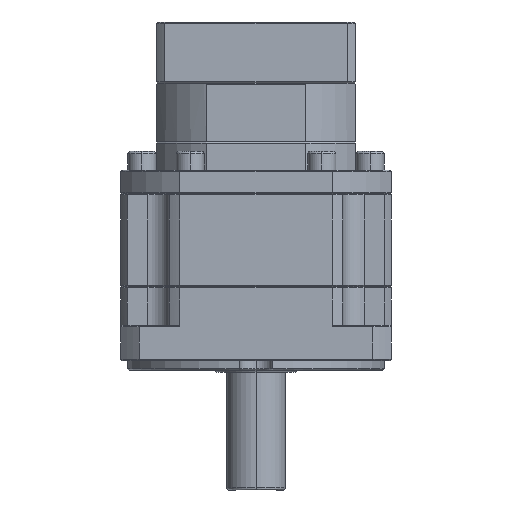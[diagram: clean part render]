
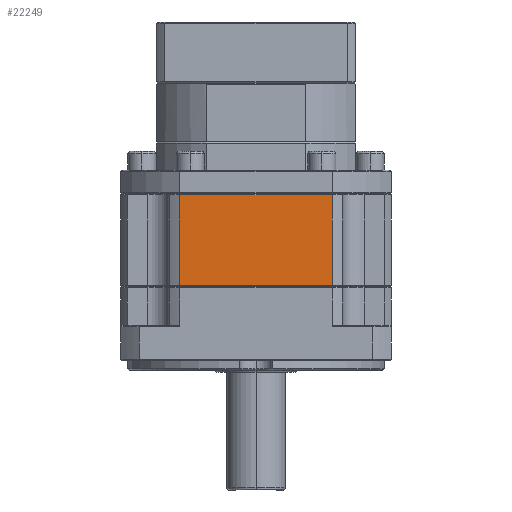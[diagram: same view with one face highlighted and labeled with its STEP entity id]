
A CAD part, front view. The second image highlights one B-rep face of the part: STEP entity #22249.
In plain terms, the highlighted planar face has unit normal (0, -1, 0).
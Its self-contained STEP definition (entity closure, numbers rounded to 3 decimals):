
#1251 = LINE ( 'NONE', #19459, #23240 ) ;
#7698 = ORIENTED_EDGE ( 'NONE', *, *, #27627, .F. ) ;
#12386 = CARTESIAN_POINT ( 'NONE',  ( 96.041, 22.547, -66.221 ) ) ;
#18432 = EDGE_CURVE ( 'NONE', #80512, #22578, #1251, .T. ) ;
#19459 = CARTESIAN_POINT ( 'NONE',  ( 38.541, 22.547, -66.721 ) ) ;
#21837 = DIRECTION ( 'NONE',  ( -1., 0., 0. ) ) ;
#22249 = ADVANCED_FACE ( 'NONE', ( #75827 ), #96482, .F. ) ;
#22578 = VERTEX_POINT ( 'NONE', #78565 ) ;
#23240 = VECTOR ( 'NONE', #85011, 1000. ) ;
#25943 = VECTOR ( 'NONE', #49230, 1000. ) ;
#27627 = EDGE_CURVE ( 'NONE', #93059, #105631, #76577, .T. ) ;
#28284 = EDGE_CURVE ( 'NONE', #22578, #93059, #116012, .T. ) ;
#43988 = VECTOR ( 'NONE', #54380, 1000. ) ;
#44554 = AXIS2_PLACEMENT_3D ( 'NONE', #12386, #77954, #21837 ) ;
#49230 = DIRECTION ( 'NONE',  ( 0., 0., 1. ) ) ;
#51625 = VECTOR ( 'NONE', #81653, 1000. ) ;
#54380 = DIRECTION ( 'NONE',  ( 0., 0., -1. ) ) ;
#57209 = EDGE_CURVE ( 'NONE', #105631, #80512, #100849, .T. ) ;
#65322 = CARTESIAN_POINT ( 'NONE',  ( 6.142, 22.547, -66.721 ) ) ;
#67753 = ORIENTED_EDGE ( 'NONE', *, *, #28284, .F. ) ;
#70472 = EDGE_LOOP ( 'NONE', ( #7698, #67753, #90980, #94516 ) ) ;
#75559 = CARTESIAN_POINT ( 'NONE',  ( 6.142, 22.547, -105.221 ) ) ;
#75827 = FACE_OUTER_BOUND ( 'NONE', #70472, .T. ) ;
#76577 = LINE ( 'NONE', #102192, #51625 ) ;
#77954 = DIRECTION ( 'NONE',  ( 0., 1., 0. ) ) ;
#78565 = CARTESIAN_POINT ( 'NONE',  ( 70.941, 22.547, -66.721 ) ) ;
#80512 = VERTEX_POINT ( 'NONE', #65322 ) ;
#81653 = DIRECTION ( 'NONE',  ( -1., 0., 0. ) ) ;
#85011 = DIRECTION ( 'NONE',  ( 1., 0., 0. ) ) ;
#90980 = ORIENTED_EDGE ( 'NONE', *, *, #18432, .F. ) ;
#93059 = VERTEX_POINT ( 'NONE', #121862 ) ;
#94516 = ORIENTED_EDGE ( 'NONE', *, *, #57209, .F. ) ;
#96482 = PLANE ( 'NONE',  #44554 ) ;
#100849 = LINE ( 'NONE', #114972, #25943 ) ;
#102192 = CARTESIAN_POINT ( 'NONE',  ( 96.041, 22.547, -105.221 ) ) ;
#105631 = VERTEX_POINT ( 'NONE', #75559 ) ;
#110626 = CARTESIAN_POINT ( 'NONE',  ( 70.941, 22.547, -300.547 ) ) ;
#114972 = CARTESIAN_POINT ( 'NONE',  ( 6.142, 22.547, -66.221 ) ) ;
#116012 = LINE ( 'NONE', #110626, #43988 ) ;
#121862 = CARTESIAN_POINT ( 'NONE',  ( 70.941, 22.547, -105.221 ) ) ;
